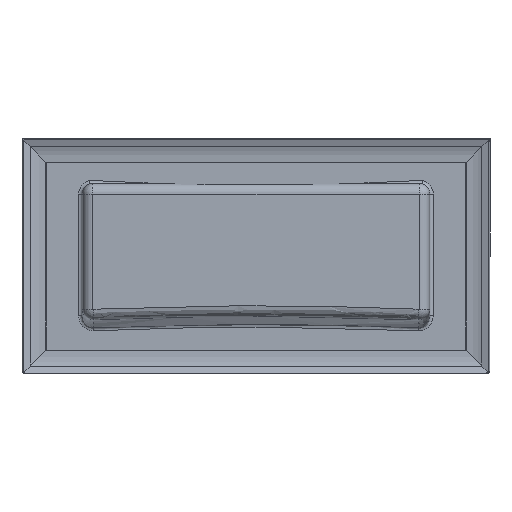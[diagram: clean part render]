
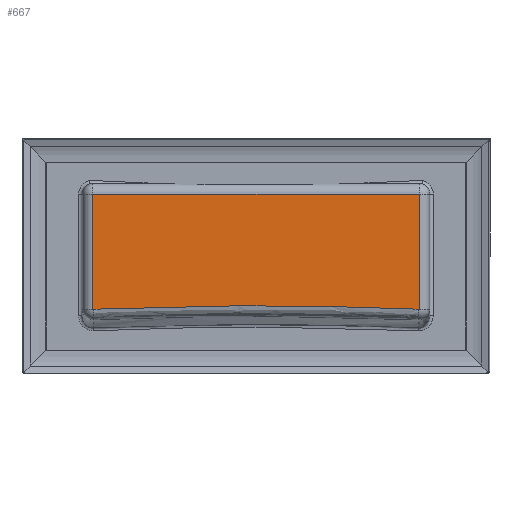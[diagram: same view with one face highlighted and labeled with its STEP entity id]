
A CAD part, front view. The second image highlights one B-rep face of the part: STEP entity #667.
In plain terms, the highlighted planar face has unit normal (0, -1, 0).
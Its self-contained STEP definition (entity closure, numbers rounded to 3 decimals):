
#5 = CARTESIAN_POINT ( 'NONE',  ( -46., -7., -14.951 ) ) ;
#188 = EDGE_CURVE ( 'NONE', #4795, #4026, #2806, .T. ) ;
#479 = ORIENTED_EDGE ( 'NONE', *, *, #4721, .T. ) ;
#585 = EDGE_LOOP ( 'NONE', ( #706, #4728, #479, #4481 ) ) ;
#610 = DIRECTION ( 'NONE',  ( 0., 0., 1. ) ) ;
#667 = ADVANCED_FACE ( 'NONE', ( #3806 ), #2090, .F. ) ;
#706 = ORIENTED_EDGE ( 'NONE', *, *, #188, .T. ) ;
#932 = EDGE_CURVE ( 'NONE', #2249, #4795, #2439, .T. ) ;
#936 = VECTOR ( 'NONE', #5005, 1000. ) ;
#942 = CARTESIAN_POINT ( 'NONE',  ( -46., -7., -14.951 ) ) ;
#1194 = CARTESIAN_POINT ( 'NONE',  ( 46., -7., -14.951 ) ) ;
#1479 = CARTESIAN_POINT ( 'NONE',  ( 46., -7., -14.951 ) ) ;
#1628 = CARTESIAN_POINT ( 'NONE',  ( 15.35, -7., -13.667 ) ) ;
#1679 = CARTESIAN_POINT ( 'NONE',  ( -46., -7., 17.5 ) ) ;
#1903 = CARTESIAN_POINT ( 'NONE',  ( 46., -7., 20.5 ) ) ;
#1988 = VECTOR ( 'NONE', #3909, 1000. ) ;
#2090 = PLANE ( 'NONE',  #3468 ) ;
#2249 = VERTEX_POINT ( 'NONE', #2572 ) ;
#2439 = LINE ( 'NONE', #2521, #936 ) ;
#2521 = CARTESIAN_POINT ( 'NONE',  ( 49., -7., 17.5 ) ) ;
#2572 = CARTESIAN_POINT ( 'NONE',  ( 46., -7., 17.5 ) ) ;
#2805 = B_SPLINE_CURVE_WITH_KNOTS ( 'NONE', 3,
 ( #5, #3323, #1628, #1194 ),
 .UNSPECIFIED., .F., .F.,
 ( 4, 4 ),
 ( 0., 0.092 ),
 .UNSPECIFIED. ) ;
#2806 = LINE ( 'NONE', #4906, #1988 ) ;
#3323 = CARTESIAN_POINT ( 'NONE',  ( -15.35, -7., -13.667 ) ) ;
#3468 = AXIS2_PLACEMENT_3D ( 'NONE', #4128, #5382, #4928 ) ;
#3621 = LINE ( 'NONE', #1903, #3923 ) ;
#3806 = FACE_OUTER_BOUND ( 'NONE', #585, .T. ) ;
#3909 = DIRECTION ( 'NONE',  ( 0., 0., -1. ) ) ;
#3923 = VECTOR ( 'NONE', #610, 1000. ) ;
#4026 = VERTEX_POINT ( 'NONE', #942 ) ;
#4128 = CARTESIAN_POINT ( 'NONE',  ( 49., -7., 20.5 ) ) ;
#4202 = VERTEX_POINT ( 'NONE', #1479 ) ;
#4481 = ORIENTED_EDGE ( 'NONE', *, *, #932, .T. ) ;
#4539 = EDGE_CURVE ( 'NONE', #4026, #4202, #2805, .T. ) ;
#4721 = EDGE_CURVE ( 'NONE', #4202, #2249, #3621, .T. ) ;
#4728 = ORIENTED_EDGE ( 'NONE', *, *, #4539, .T. ) ;
#4795 = VERTEX_POINT ( 'NONE', #1679 ) ;
#4906 = CARTESIAN_POINT ( 'NONE',  ( -46., -7., 20.5 ) ) ;
#4928 = DIRECTION ( 'NONE',  ( 0., 0., 1. ) ) ;
#5005 = DIRECTION ( 'NONE',  ( -1., 0., 0. ) ) ;
#5382 = DIRECTION ( 'NONE',  ( 0., 1., 0. ) ) ;
